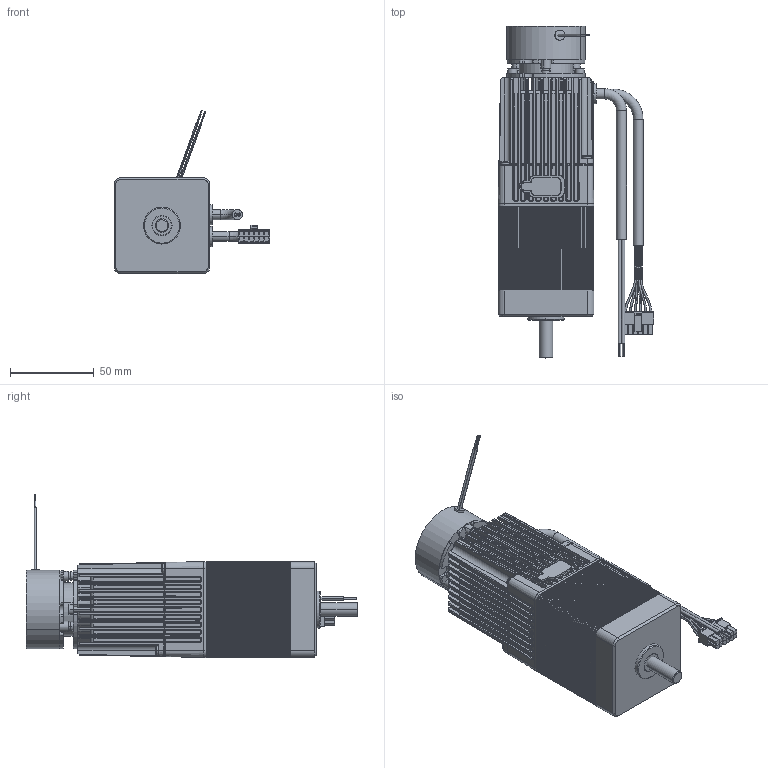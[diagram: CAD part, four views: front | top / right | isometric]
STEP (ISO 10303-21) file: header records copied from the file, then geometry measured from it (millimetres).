
FILE_DESCRIPTION((''),'2;1');
FILE_NAME('ENV_SIMP_STEP_TEMP','2012-10-24T',('VALJBL1'),('CROUZET-AUTOMATISMES'),'PRO/ENGINEER BY PARAMETRIC TECHNOLOGY CORPORATION, 2012090','PRO/ENGINEER BY PARAMETRIC TECHNOLOGY CORPORATION, 2012090','');
FILE_SCHEMA(('CONFIG_CONTROL_DESIGN'));
Products named in the file (1): ENV_SIMP_STEP_TEMP
Bounding box: 93.02 x 197.95 x 97.22 mm (x, y, z)
Surface area: 107740.4 mm2 (no closed solid volume)
Topology: 0 solids, 302 shells, 3448 faces, 10289 edges, 6970 vertices
Faces by surface type: plane 1583, cylinder 1561, bspline 123, torus 80, sphere 72, cone 29
Entity records: 122038 total; most frequent: CARTESIAN_POINT 34753, DIRECTION 17848, ORIENTED_EDGE 16066, EDGE_CURVE 10289, VERTEX_POINT 6970, VECTOR 6072, LINE 6072, AXIS2_PLACEMENT_3D 5888
